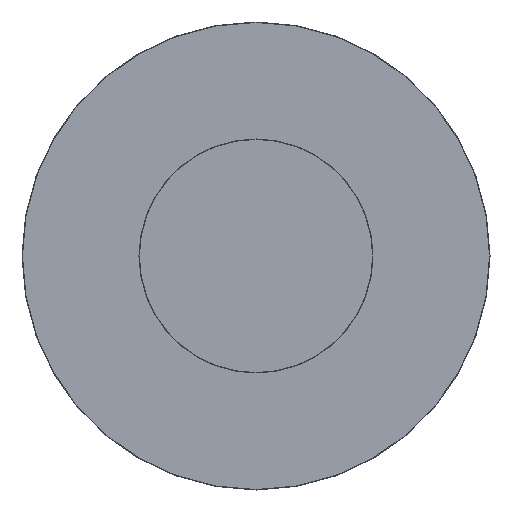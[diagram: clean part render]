
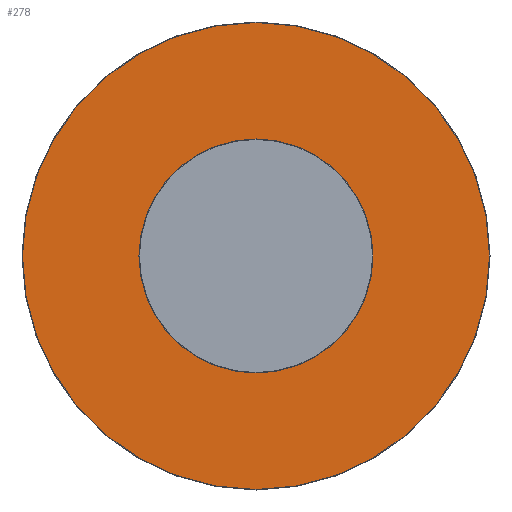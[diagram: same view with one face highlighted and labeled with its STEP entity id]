
A CAD part, front view. The second image highlights one B-rep face of the part: STEP entity #278.
In plain terms, the highlighted planar face has unit normal (0, -1, 0).
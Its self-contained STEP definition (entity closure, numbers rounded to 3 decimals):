
#70 = CARTESIAN_POINT ( 'NONE',  ( 0., 355., 0. ) ) ;
#75 = CIRCLE ( 'NONE', #283, 499. ) ;
#91 = DIRECTION ( 'NONE',  ( 0., 1., 0. ) ) ;
#117 = FACE_OUTER_BOUND ( 'NONE', #458, .T. ) ;
#138 = DIRECTION ( 'NONE',  ( 0., 0., 1. ) ) ;
#174 = CIRCLE ( 'NONE', #188, 499. ) ;
#188 = AXIS2_PLACEMENT_3D ( 'NONE', #331, #639, #385 ) ;
#231 = EDGE_CURVE ( 'NONE', #497, #701, #174, .T. ) ;
#258 = ORIENTED_EDGE ( 'NONE', *, *, #231, .T. ) ;
#278 = ADVANCED_FACE ( 'NONE', ( #117 ), #642, .F. ) ;
#283 = AXIS2_PLACEMENT_3D ( 'NONE', #70, #478, #138 ) ;
#331 = CARTESIAN_POINT ( 'NONE',  ( 0., 355., 0. ) ) ;
#358 = ORIENTED_EDGE ( 'NONE', *, *, #387, .T. ) ;
#385 = DIRECTION ( 'NONE',  ( 0., 0., 1. ) ) ;
#387 = EDGE_CURVE ( 'NONE', #701, #497, #75, .T. ) ;
#458 = EDGE_LOOP ( 'NONE', ( #358, #258 ) ) ;
#478 = DIRECTION ( 'NONE',  ( 0., -1., 0. ) ) ;
#497 = VERTEX_POINT ( 'NONE', #532 ) ;
#532 = CARTESIAN_POINT ( 'NONE',  ( 0., 355., -499. ) ) ;
#548 = DIRECTION ( 'NONE',  ( 0., 0., 1. ) ) ;
#590 = CARTESIAN_POINT ( 'NONE',  ( 0., 355., 0. ) ) ;
#631 = CARTESIAN_POINT ( 'NONE',  ( 0., 355., 499. ) ) ;
#639 = DIRECTION ( 'NONE',  ( 0., -1., 0. ) ) ;
#642 = PLANE ( 'NONE',  #706 ) ;
#701 = VERTEX_POINT ( 'NONE', #631 ) ;
#706 = AXIS2_PLACEMENT_3D ( 'NONE', #590, #91, #548 ) ;
